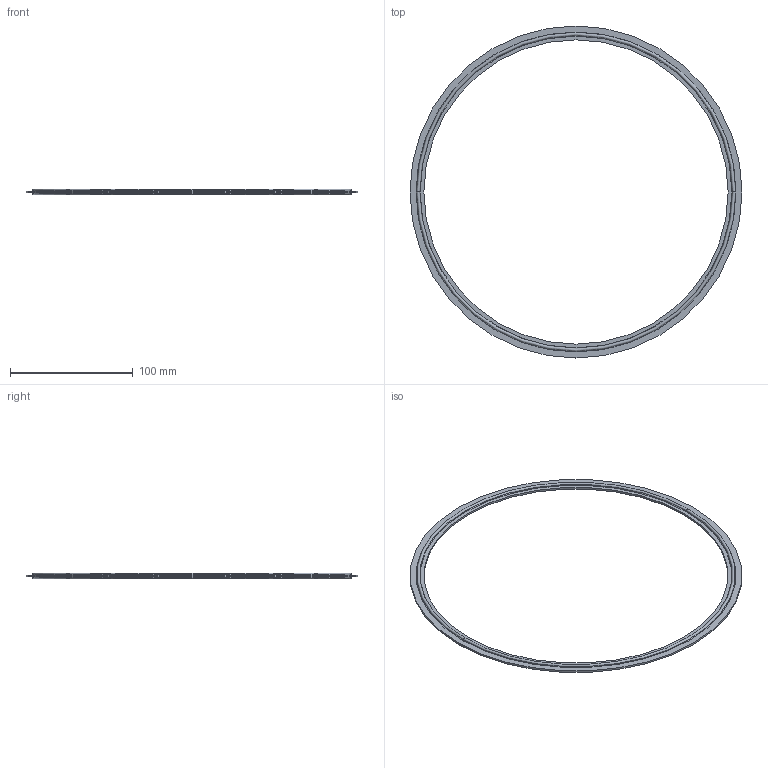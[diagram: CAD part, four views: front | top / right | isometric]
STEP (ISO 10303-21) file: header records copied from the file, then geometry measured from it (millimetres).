
FILE_DESCRIPTION (( 'STEP AP214' ), '1' );
FILE_NAME ('EG40 10.0 GASKET.STEP', '2025-09-26T18:54:08', ( '' ), ( '' ), 'SwSTEP 2.0', 'SolidWorks 2023', '' );
FILE_SCHEMA (( 'AUTOMOTIVE_DESIGN' ));
Length unit declared in the file: inch
Products named in the file (1): EG40 10.0 GASKET
Bounding box: 270.76 x 270.76 x 4.79 mm (x, y, z)
Volume: 19993.8 mm3; surface area: 23839.3 mm2
Topology: 1 solids, 1 shells, 20 faces, 40 edges, 24 vertices
Faces by surface type: torus 12, cylinder 4, plane 4
Entity records: 567 total; most frequent: DIRECTION 118, CARTESIAN_POINT 85, ORIENTED_EDGE 80, AXIS2_PLACEMENT_3D 57, EDGE_CURVE 40, CIRCLE 36, EDGE_LOOP 24, VERTEX_POINT 24
